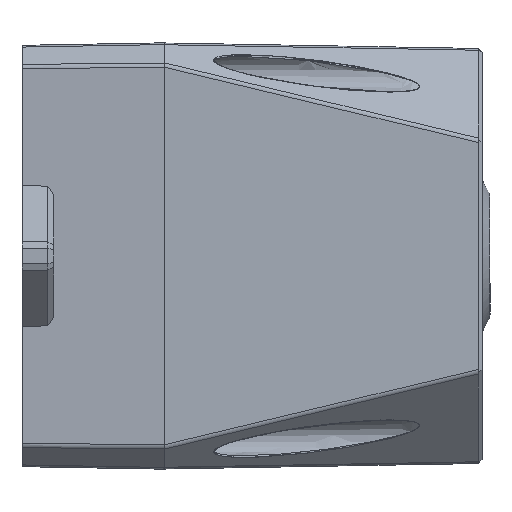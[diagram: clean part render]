
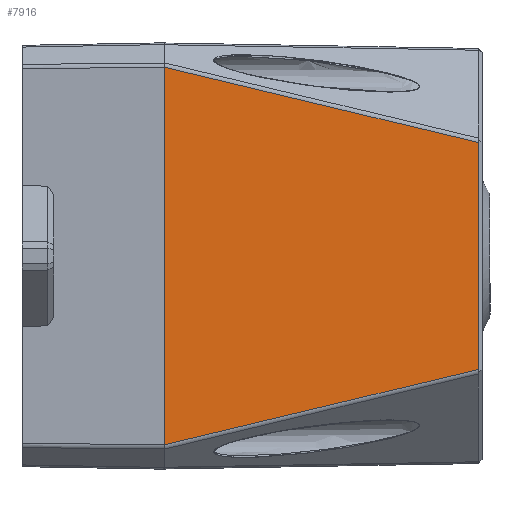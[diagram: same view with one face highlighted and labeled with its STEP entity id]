
A CAD part, left-side view. The second image highlights one B-rep face of the part: STEP entity #7916.
In plain terms, the highlighted planar face has unit normal (1, 0.018, 0).
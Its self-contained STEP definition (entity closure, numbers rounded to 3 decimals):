
#730=FACE_OUTER_BOUND('',#1041,.T.);
#1041=EDGE_LOOP('',(#6928,#6929,#6930,#6931));
#2122=LINE('',#22517,#2874);
#2123=LINE('',#22519,#2875);
#2124=LINE('',#22521,#2876);
#2125=LINE('',#22522,#2877);
#2874=VECTOR('',#10769,57.239);
#2875=VECTOR('',#10770,81.259);
#2876=VECTOR('',#10771,95.189);
#2877=VECTOR('',#10772,81.259);
#4062=VERTEX_POINT('',#22515);
#4063=VERTEX_POINT('',#22516);
#4064=VERTEX_POINT('',#22518);
#4065=VERTEX_POINT('',#22520);
#5493=EDGE_CURVE('',#4062,#4063,#2122,.T.);
#5494=EDGE_CURVE('',#4063,#4064,#2123,.T.);
#5495=EDGE_CURVE('',#4064,#4065,#2124,.T.);
#5496=EDGE_CURVE('',#4065,#4062,#2125,.T.);
#6928=ORIENTED_EDGE('',*,*,#5493,.T.);
#6929=ORIENTED_EDGE('',*,*,#5494,.T.);
#6930=ORIENTED_EDGE('',*,*,#5495,.T.);
#6931=ORIENTED_EDGE('',*,*,#5496,.T.);
#7391=PLANE('',#9047);
#7916=ADVANCED_FACE('',(#730),#7391,.T.);
#9047=AXIS2_PLACEMENT_3D('',#22514,#10767,#10768);
#10767=DIRECTION('center_axis',(1.,0.017,0.));
#10768=DIRECTION('ref_axis',(0.,0.,-1.));
#10769=DIRECTION('',(0.,0.,-1.));
#10770=DIRECTION('',(-0.017,0.972,-0.234));
#10771=DIRECTION('',(0.,0.,1.));
#10772=DIRECTION('',(0.017,-0.972,-0.234));
#22514=CARTESIAN_POINT('Origin',(-53.024,-39.5,-48.166));
#22515=CARTESIAN_POINT('',(-52.334,-79.,28.62));
#22516=CARTESIAN_POINT('',(-52.334,-79.,-28.62));
#22517=CARTESIAN_POINT('',(-52.334,-79.,28.62));
#22518=CARTESIAN_POINT('',(-53.713,0.,-47.595));
#22519=CARTESIAN_POINT('',(-52.334,-79.,-28.62));
#22520=CARTESIAN_POINT('',(-53.713,0.,47.595));
#22521=CARTESIAN_POINT('',(-53.713,0.,-47.595));
#22522=CARTESIAN_POINT('',(-53.713,0.,47.595));
